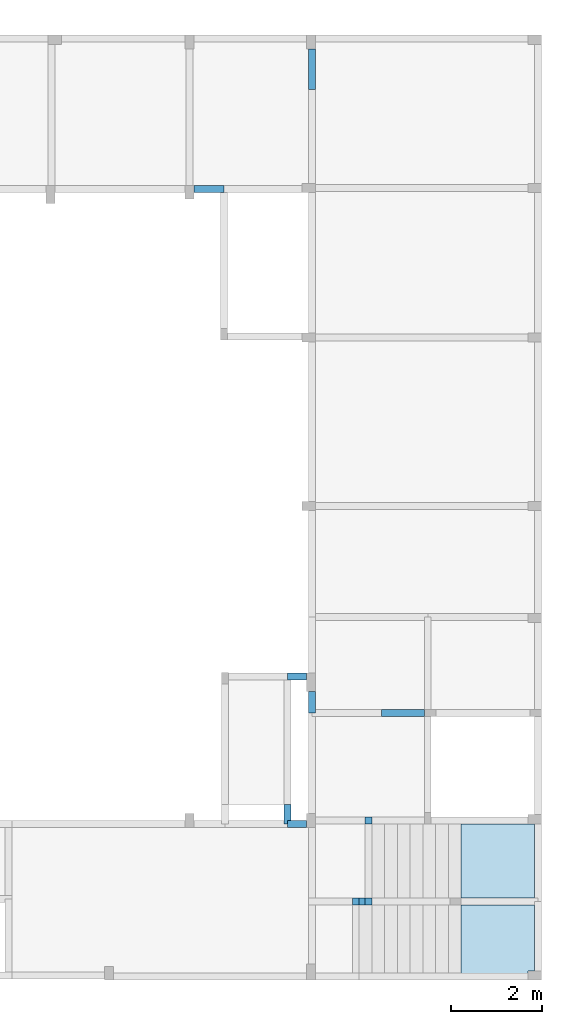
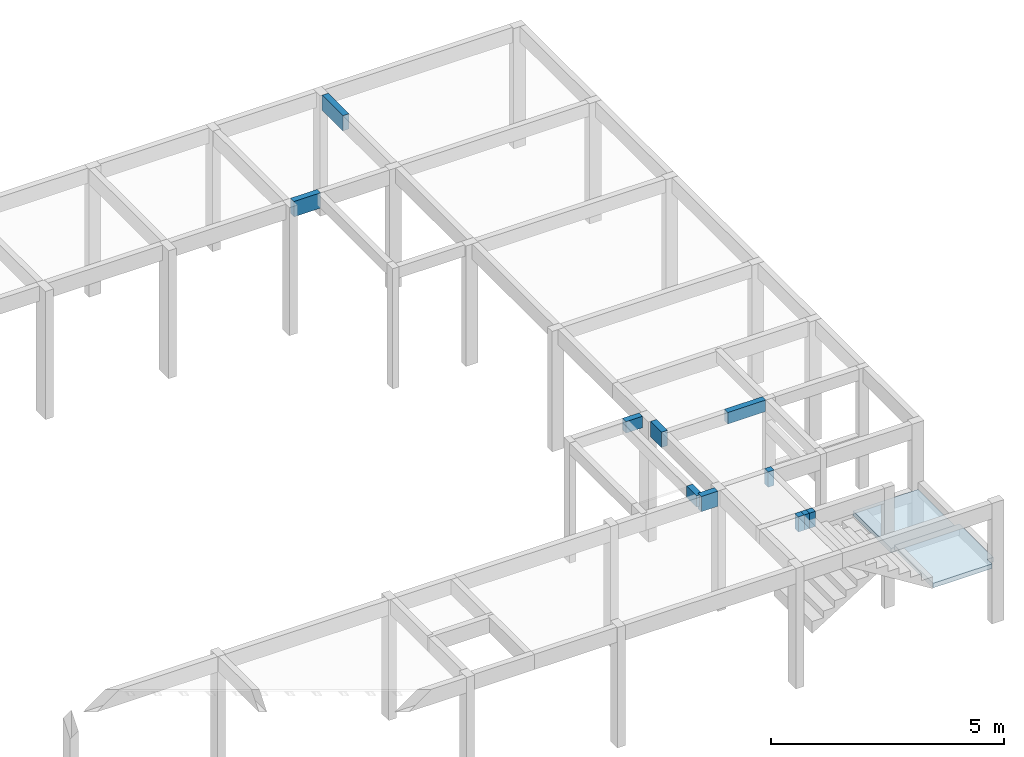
# One storey, part 3 of 11: 11 beams, 2 slabs.
"""IFC4 building model written with IfcOpenShell, lengths in centimetres."""

import ifcopenshell
import ifcopenshell.guid

model = None  # the IFC model being written
_history = None  # IfcOwnerHistory: only IFC2X3 demands one
_inside = {}  # id of a spatial element -> (the spatial element, [elements in it])
_under = {}  # id of a project, library or spatial element -> (it, [spatial elements below it])
_declared = {}  # id of a project -> (the project, [libraries it declares])
_typed = {}  # id of a type object -> (the type object, [elements of that type])
_made_of = {}  # id of a material, layer set ... -> (it, [elements and type objects made of it])


def new_model(schema):
    """Start an empty IFC model of exactly this schema.

    Asked for "IFC4X3", IfcOpenShell would pick the latest addendum, in which some entities
    have other attributes; the version numbers below select the first issue.
    IFC2X3 requires an IfcOwnerHistory on every rooted entity: one is made here for all.
    """
    global model, _history
    if schema == "IFC4X3":
        model = ifcopenshell.file(schema_version=(4, 3, 0, 0))
    else:
        model = ifcopenshell.file(schema=schema)
    _inside.clear()
    _under.clear()
    _declared.clear()
    _typed.clear()
    _made_of.clear()
    _history = None
    if model.schema == "IFC2X3":
        org = make("IfcOrganization", Name="unknown")
        user = make(
            "IfcPersonAndOrganization",
            ThePerson=make("IfcPerson", FamilyName="unknown"),
            TheOrganization=org,
        )
        app = make(
            "IfcApplication",
            ApplicationDeveloper=org,
            Version="unknown",
            ApplicationFullName="unknown",
            ApplicationIdentifier="unknown",
        )
        _history = make(
            "IfcOwnerHistory",
            OwningUser=user,
            OwningApplication=app,
            ChangeAction="ADDED",
            CreationDate=0,
        )
    return model


def make(cls, **values):
    """One entity of the class cls with the attributes given. An attribute that is None is left unset."""
    return model.create_entity(
        cls, **{name: value for name, value in values.items() if value is not None}
    )


def rooted(cls, **values):
    """An entity with a GlobalId (a new one), such as an element, a storey or a relation."""
    return make(cls, GlobalId=ifcopenshell.guid.new(), OwnerHistory=_history, **values)


def si_unit(unit_type, name, prefix=None):
    """IfcSIUnit, for example si_unit("LENGTHUNIT", "METRE", prefix="MILLI")."""
    return make("IfcSIUnit", UnitType=unit_type, Prefix=prefix, Name=name)


def derived_unit(unit_type, elements):
    """IfcDerivedUnit: a product of units, each with its exponent."""
    return make(
        "IfcDerivedUnit",
        Elements=[
            make("IfcDerivedUnitElement", Unit=unit, Exponent=power)
            for unit, power in elements
        ],
        UnitType=unit_type,
    )


def assignment(units):
    """IfcUnitAssignment: the units of a project."""
    return None if units is None else make("IfcUnitAssignment", Units=units)


def point(xyz):
    """IfcCartesianPoint."""
    return None if xyz is None else make("IfcCartesianPoint", Coordinates=xyz)


def direction(xyz):
    """IfcDirection."""
    return None if xyz is None else make("IfcDirection", DirectionRatios=xyz)


def frame(location, z_axis=None, x_axis=None):
    """IfcAxis2Placement3D, a coordinate frame: its origin and axes. An axis left out is left unset."""
    return make(
        "IfcAxis2Placement3D",
        Location=point(location),
        Axis=direction(z_axis),
        RefDirection=direction(x_axis),
    )


def frame_2d(location, x_axis=None):
    """IfcAxis2Placement2D, a coordinate frame in the plane: its origin and x axis."""
    return make(
        "IfcAxis2Placement2D", Location=point(location), RefDirection=direction(x_axis)
    )


def origin_with_axes():
    """The frame at (0, 0, 0) with the z axis (0, 0, 1) and the x axis (1, 0, 0) written out."""
    return frame((0.0, 0.0, 0.0), z_axis=(0.0, 0.0, 1.0), x_axis=(1.0, 0.0, 0.0))


def origin_2d_with_axis():
    """The frame at (0, 0) in the plane with the x axis (1, 0) written out."""
    return frame_2d((0.0, 0.0), x_axis=(1.0, 0.0))


def place(relative_to, where):
    """IfcLocalPlacement: puts the frame where relative to a parent placement (None: the world)."""
    return make(
        "IfcLocalPlacement", PlacementRelTo=relative_to, RelativePlacement=where
    )


def context(
    kind, dimensions, precision=None, world=None, true_north=None, identifier=None
):
    """IfcGeometricRepresentationContext, for example the 3D "Model" context."""
    return make(
        "IfcGeometricRepresentationContext",
        ContextIdentifier=identifier,
        ContextType=kind,
        CoordinateSpaceDimension=dimensions,
        Precision=precision,
        WorldCoordinateSystem=world,
        TrueNorth=true_north,
    )


def project(units=None, contexts=None):
    """IfcProject with its units and contexts."""
    return rooted(
        "IfcProject",
        Name="project",
        RepresentationContexts=contexts,
        UnitsInContext=assignment(units),
    )


def spatial(cls, under=None, at=None, **own):
    """A site, building, storey or space (cls), placed at a placement, below another one or the project."""
    s = rooted(cls, ObjectPlacement=at, **own)
    if under is not None:
        _under.setdefault(under.id(), (under, []))[1].append(s)
    return s


def polyline(points):
    """IfcPolyline through the points."""
    return make("IfcPolyline", Points=[point(p) for p in points])


def profile(cls, at=None, kind="AREA", **sizes):
    """A parametric profile (cls). Its sizes go by their IFC names, for example OverallWidth=200.0."""
    return make(cls, ProfileType=kind, Position=at, **sizes)


def rectangle(**sizes):
    """IfcRectangleProfileDef."""
    return profile("IfcRectangleProfileDef", **sizes)


def outline(outer, holes=None, kind="AREA"):
    """IfcArbitraryClosedProfileDef: a profile drawn as a closed curve; with holes, ...WithVoids."""
    if holes is None:
        return make("IfcArbitraryClosedProfileDef", ProfileType=kind, OuterCurve=outer)
    return make(
        "IfcArbitraryProfileDefWithVoids",
        ProfileType=kind,
        OuterCurve=outer,
        InnerCurves=holes,
    )


def extrude(swept, where, along, depth):
    """IfcExtrudedAreaSolid: the profile swept, set in the frame where, extruded along a direction by depth."""
    return make(
        "IfcExtrudedAreaSolid",
        SweptArea=swept,
        Position=where,
        ExtrudedDirection=direction(along),
        Depth=depth,
    )


def shape(context_of_items, identifier, shape_type, items):
    """IfcShapeRepresentation: the items that make up one representation, for example the "Body"."""
    return make(
        "IfcShapeRepresentation",
        ContextOfItems=context_of_items,
        RepresentationIdentifier=identifier,
        RepresentationType=shape_type,
        Items=items,
    )


def material(Name=None, Category=None):
    """IfcMaterial."""
    return make("IfcMaterial", Name=Name, Category=Category)


def made_of(thing, what):
    """Note that an element or type object is made of a material, layer set ...; save() writes the relation."""
    if what is not None:
        _made_of.setdefault(what.id(), (what, []))[1].append(thing)
    return thing


def element(
    cls,
    number,
    at=None,
    inside=None,
    cuts=None,
    type_object=None,
    material=None,
    context=None,
    identifier="Body",
    shape_type=None,
    held_by="IfcProductDefinitionShape",
    body=None,
    shapes=None,
    **own,
):
    """One element of the class cls, such as IfcWall. Its Tag is "e" and its number.

    at: its placement. inside: the storey or other place that contains it. cuts: it is an
    opening in that element (IfcRelVoidsElement). A single representation is given by context,
    identifier, shape_type and body (its items); several are given by shapes. held_by: the class
    of the entity that holds the representations. save() writes the other relations.
    """
    e = rooted(cls, Tag="e%d" % number, ObjectPlacement=at, **own)
    if body is not None:
        shapes = [shape(context, identifier, shape_type, body)]
    if shapes is not None:
        e.Representation = make(held_by, Representations=shapes)
    if inside is not None:
        _inside.setdefault(inside.id(), (inside, []))[1].append(e)
    if cuts is not None:
        rooted(
            "IfcRelVoidsElement", RelatingBuildingElement=cuts, RelatedOpeningElement=e
        )
    if type_object is not None:
        _typed.setdefault(type_object.id(), (type_object, []))[1].append(e)
    return made_of(e, material)


def aggregate(whole, parts):
    """IfcRelAggregates: a whole, such as a stair, and the parts it consists of."""
    return rooted("IfcRelAggregates", RelatingObject=whole, RelatedObjects=parts)


def save(model, path):
    """Write the relations noted so far, then the file.

    IfcRelAggregates (storeys below a building ...), IfcRelContainedInSpatialStructure (elements
    in a storey), IfcRelDefinesByType, IfcRelAssociatesMaterial and IfcRelDeclares: one each for
    every whole, place, type object, material and project.
    """
    for whole, parts in _under.values():
        aggregate(whole, parts)
    for where, things in _inside.values():
        rooted(
            "IfcRelContainedInSpatialStructure",
            RelatedElements=things,
            RelatingStructure=where,
        )
    for kind, things in _typed.values():
        rooted("IfcRelDefinesByType", RelatedObjects=things, RelatingType=kind)
    for what, things in _made_of.values():
        rooted("IfcRelAssociatesMaterial", RelatedObjects=things, RelatingMaterial=what)
    for by, libraries in _declared.values():
        rooted("IfcRelDeclares", RelatingContext=by, RelatedDefinitions=libraries)
    model.write(path)


model = new_model("IFC4")

# Units and contexts
model_context = context("Model", 3, precision=1e-05, world=origin_with_axes(), identifier="Body")
ifc_project = project(units=[si_unit("LENGTHUNIT", "METRE", prefix="CENTI"), si_unit("VOLUMEUNIT", "CUBIC_METRE"), si_unit("AREAUNIT", "SQUARE_METRE"), si_unit("POWERUNIT", "WATT"), si_unit("LUMINOUSFLUXUNIT", "LUMEN"), si_unit("ELECTRICCURRENTUNIT", "AMPERE"), si_unit("PRESSUREUNIT", "PASCAL", prefix="KILO"), si_unit("MASSUNIT", "GRAM", prefix="KILO"), si_unit("PLANEANGLEUNIT", "RADIAN"), derived_unit("VOLUMETRICFLOWRATEUNIT", [(si_unit("LENGTHUNIT", "METRE"), 3), (si_unit("TIMEUNIT", "SECOND"), -1)])], contexts=[model_context])

# Site, building, storey
site_placement = place(None, origin_with_axes())
site = spatial("IfcSite", under=ifc_project, at=site_placement)
building_placement = place(site_placement, frame((0.0, 0.0, -295.0)))
building = spatial("IfcBuilding", under=site, at=building_placement)
placement_1 = place(building_placement, origin_with_axes())
placement_2 = place(placement_1, frame((0.0, 0.0, 101.0), z_axis=(0.0, 0.0, 1.0), x_axis=(1.0, 0.0, 0.0)))
placement_3 = place(placement_2, frame((0.0, 0.0, 204.0), z_axis=(0.0, 0.0, 1.0), x_axis=(1.0, 0.0, 0.0)))
storey_placement = place(placement_3, frame((0.0, 0.0, 292.0), z_axis=(0.0, 0.0, 1.0), x_axis=(1.0, 0.0, 0.0)))
storey = spatial("IfcBuildingStorey", under=building, at=storey_placement, Name="PAVTO 01", CompositionType="ELEMENT", Elevation=302.0)

# Beams
ifc_material = material(Name="Concreto")
beam_1_placement = place(storey_placement, frame((3286.565, -5442.19, 0.0), z_axis=(0.0, 0.0, 1.0), x_axis=(1.0, 0.0, 0.0)))
element("IfcBeam", 1, at=beam_1_placement, inside=storey, material=ifc_material, Name="V104", context=model_context, shape_type="SolidModel", body=[
    extrude(rectangle(XDim=15.0, YDim=40.0, at=origin_2d_with_axis()), frame((-32.835, 0.0, -20.0), z_axis=(1.0, 0.0, 0.0), x_axis=(0.0, -1.0, 0.0)), (0.0, 0.0, 1.0), 65.67),
])
beam_2_placement = place(storey_placement, frame((3479.97, -6513.05, 0.0), z_axis=(0.0, 0.0, 1.0), x_axis=(1.0, 0.0, 0.0)))
element("IfcBeam", 2, at=beam_2_placement, inside=storey, material=ifc_material, Name="V112", context=model_context, shape_type="SolidModel", body=[
    extrude(rectangle(XDim=15.0, YDim=30.0, at=origin_2d_with_axis()), frame((-20.76, 0.0, -15.0), z_axis=(1.0, 0.0, 0.0), x_axis=(0.0, -1.0, 0.0)), (0.0, 0.0, 1.0), 41.52),
])
beam_3_placement = place(storey_placement, frame((3712.73, -6592.81, 0.0), z_axis=(0.0, 0.0, 1.0), x_axis=(1.0, 0.0, 0.0)))
element("IfcBeam", 3, at=beam_3_placement, inside=storey, material=ifc_material, Name="V113", context=model_context, shape_type="SolidModel", body=[
    extrude(rectangle(XDim=15.0, YDim=30.0, at=origin_2d_with_axis()), frame((-47.0, 0.0, -15.0), z_axis=(1.0, 0.0, 0.0), x_axis=(0.0, -1.0, 0.0)), (0.0, 0.0, 1.0), 94.0),
])
beam_4_placement = place(storey_placement, frame((3479.97, -6836.7, 0.0), z_axis=(0.0, 0.0, 1.0), x_axis=(1.0, 0.0, 0.0)))
element("IfcBeam", 4, at=beam_4_placement, inside=storey, material=ifc_material, Name="V115", context=model_context, shape_type="SolidModel", body=[
    extrude(rectangle(XDim=15.0, YDim=40.0, at=origin_2d_with_axis()), frame((-20.76, 0.0, -20.0), z_axis=(1.0, 0.0, 0.0), x_axis=(0.0, -1.0, 0.0)), (0.0, 0.0, 1.0), 41.52),
])
beam_5_placement = place(storey_placement, frame((3623.09, -7006.81, 0.0), z_axis=(0.0, 0.0, 1.0), x_axis=(1.0, 0.0, 0.0)))
element("IfcBeam", 5, at=beam_5_placement, inside=storey, material=ifc_material, Name="V119", context=model_context, shape_type="SolidModel", body=[
    extrude(rectangle(XDim=15.0, YDim=40.0, at=origin_2d_with_axis()), frame((-6.5, 0.0, -20.0), z_axis=(1.0, 0.0, 0.0), x_axis=(0.0, -1.0, 0.0)), (0.0, 0.0, 1.0), 13.0),
])
beam_6_placement = place(storey_placement, frame((3459.21, -6815.48, 0.0), z_axis=(0.0, 0.0, 1.0), x_axis=(1.0, 0.0, 0.0)))
element("IfcBeam", 6, at=beam_6_placement, inside=storey, material=ifc_material, Name="V144", context=model_context, shape_type="SolidModel", body=[
    extrude(rectangle(XDim=15.0, YDim=30.0, at=origin_2d_with_axis()), frame((0.0, -21.22, -15.0), z_axis=(0.0, 1.0, 0.0), x_axis=(1.0, 0.0, 0.0)), (0.0, 0.0, 1.0), 42.44),
])
beam_7_placement = place(storey_placement, frame((3513.23, -6569.18, 0.0), z_axis=(0.0, 0.0, 1.0), x_axis=(1.0, 0.0, 0.0)))
element("IfcBeam", 7, at=beam_7_placement, inside=storey, material=ifc_material, Name="V145", context=model_context, shape_type="SolidModel", body=[
    extrude(rectangle(XDim=15.0, YDim=40.0, at=origin_2d_with_axis()), frame((0.0, -23.63, -20.0), z_axis=(0.0, 1.0, 0.0), x_axis=(1.0, 0.0, 0.0)), (0.0, 0.0, 1.0), 47.26),
])
beam_8_placement = place(storey_placement, frame((3513.23, -5179.05, 0.0), z_axis=(0.0, 0.0, 1.0), x_axis=(1.0, 0.0, 0.0)))
element("IfcBeam", 8, at=beam_8_placement, inside=storey, material=ifc_material, Name="V145", context=model_context, shape_type="SolidModel", body=[
    extrude(rectangle(XDim=15.0, YDim=40.0, at=origin_2d_with_axis()), frame((0.0, -44.5, -20.0), z_axis=(0.0, 1.0, 0.0), x_axis=(1.0, 0.0, 0.0)), (0.0, 0.0, 1.0), 89.0),
])
for number, where, z_axis, x_axis, name in (
    (9, (3609.09, -7006.81, 0.0), (0.0, 0.0, 1.0), (1.0, 0.0, 0.0), "V146"),
    (10, (3637.09, -6828.79, 0.0), (0.0, 0.0, 1.0), (1.0, 0.0, 0.0), "V147"),
    (11, (3637.09, -7006.81, 0.0), (0.0, 0.0, 1.0), (1.0, 0.0, 0.0), "V147"),
):
    element("IfcBeam", number, at=place(storey_placement, frame(where, z_axis=z_axis, x_axis=x_axis)), inside=storey, material=ifc_material, Name=name, context=model_context, shape_type="SolidModel", body=[
        extrude(rectangle(XDim=15.0, YDim=40.0, at=origin_2d_with_axis()), frame((0.0, -7.5, -20.0), z_axis=(0.0, 1.0, 0.0), x_axis=(1.0, 0.0, 0.0)), (0.0, 0.0, 1.0), 15.0),
    ])

# Slabs
slab_1_placement = place(storey_placement, frame((3921.175, -6917.8, -175.6), z_axis=(0.0, 0.0, 1.0), x_axis=(1.0, 0.0, 0.0)))
element("IfcSlab", 12, at=slab_1_placement, inside=storey, material=ifc_material, Name="PAT 1", PredefinedType="LANDING", context=model_context, shape_type="SolidModel", body=[
    extrude(outline(polyline([(80.58421611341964, -81.509), (80.57521611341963, 81.51), (-80.58378388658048, 81.51), (-80.58378388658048, -81.51), (80.58421611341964, -81.509), (80.58421611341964, -81.509)])), frame((-0.00021611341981, 0.0, -12.0), z_axis=(0.0, 0.0, 1.0), x_axis=(1.0, 0.0, 0.0)), (0.0, 0.0, 1.0), 12.0),
])
slab_2_placement = place(storey_placement, frame((3921.1755, -7096.8105, -157.95), z_axis=(0.0, 0.0, 1.0), x_axis=(1.0, 0.0, 0.0)))
element("IfcSlab", 13, at=slab_2_placement, inside=storey, material=ifc_material, Name="PAT 2", PredefinedType="LANDING", context=model_context, shape_type="SolidModel", body=[
    extrude(outline(polyline([(65.585, -62.5), (80.585, -62.5), (80.584, 82.499), (-80.584, 82.499), (-80.584, -82.5), (65.585, -82.5), (65.585, -62.5), (65.585, -62.5)])), frame((-0.0005, 0.0005, -12.0), z_axis=(0.0, 0.0, 1.0), x_axis=(1.0, 0.0, 0.0)), (0.0, 0.0, 1.0), 12.0),
])

save(model, "model.ifc")
